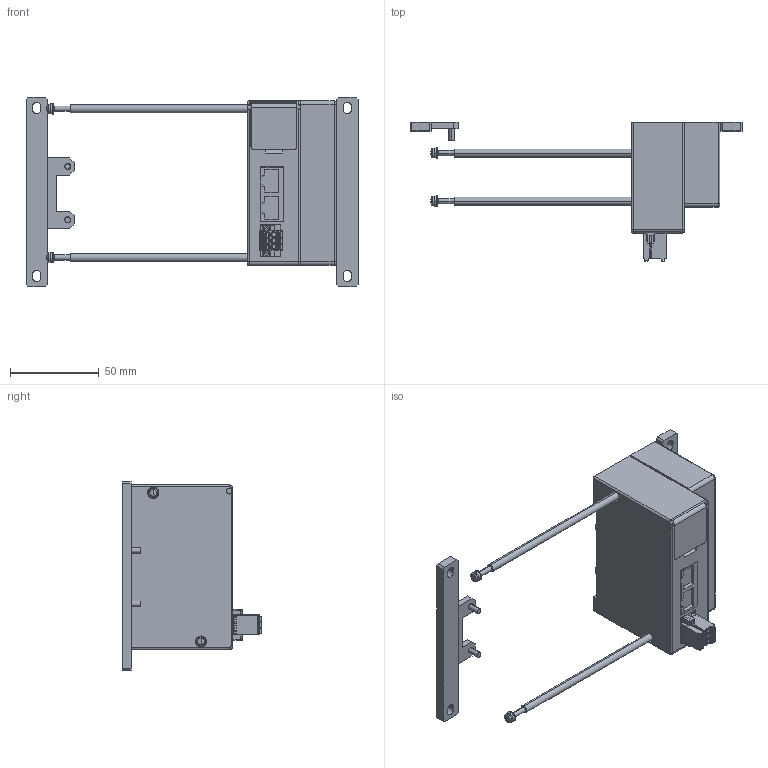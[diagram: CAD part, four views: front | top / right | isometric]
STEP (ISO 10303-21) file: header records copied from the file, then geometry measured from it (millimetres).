
FILE_DESCRIPTION( (''), '2;1');
FILE_NAME ('YS8EK3-5.stp','2022-12-01T14:39:03',(''),(''),'spGate 12.6.6','','');
FILE_SCHEMA (('AUTOMOTIVE_DESIGN'));
Length unit declared in the file: millimetre
Products named in the file (3): Assembly; YS8EK3-5-prt0; YS8EK3-5-prt1
Assembly tree (3 placements, depth 2):
  Assembly
    YS8EK3-5-prt0  x2
    YS8EK3-5-prt1
Bounding box: 187.5 x 78.8 x 107 mm (x, y, z)
Volume: 272028.7 mm3; surface area: 44328.6 mm2
Topology: 3 solids, 3 shells, 825 faces, 2127 edges, 1359 vertices
Faces by surface type: plane 501, cylinder 242, bspline 70, sphere 12
Entity records: 39929 total; most frequent: CARTESIAN_POINT 5493, ORIENTED_EDGE 3950, DIRECTION 3717, COLOUR_RGB 2744, PRESENTATION_STYLE_ASSIGNMENT 2744, STYLED_ITEM 2744, EDGE_CURVE 1975, DRAUGHTING_PRE_DEFINED_CURVE_FONT 1975
